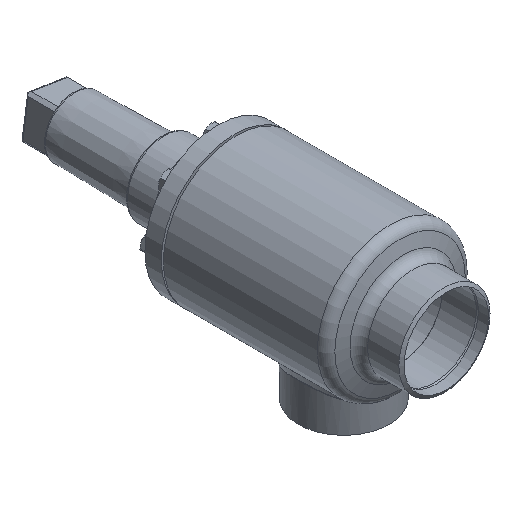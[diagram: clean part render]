
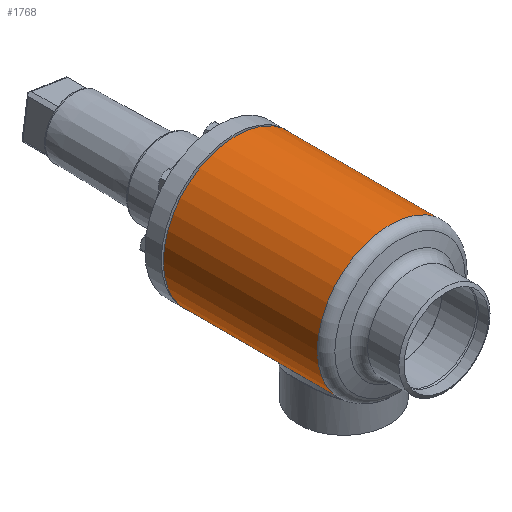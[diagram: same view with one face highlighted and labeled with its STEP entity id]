
A CAD part, isometric view. The second image highlights one B-rep face of the part: STEP entity #1768.
In plain terms, the highlighted cylindrical face has radius 71 mm (diameter 142 mm), a full revolution.
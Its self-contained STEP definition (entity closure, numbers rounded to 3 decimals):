
#294=FACE_BOUND('',#607,.T.);
#295=FACE_BOUND('',#608,.T.);
#403=CYLINDRICAL_SURFACE('',#1917,71.);
#464=FACE_OUTER_BOUND('',#606,.T.);
#606=EDGE_LOOP('',(#1380));
#607=EDGE_LOOP('',(#1381,#1382));
#608=EDGE_LOOP('',(#1383));
#843=CIRCLE('',#1913,71.);
#846=CIRCLE('',#1918,71.);
#969=B_SPLINE_CURVE_WITH_KNOTS('',3,(#3391,#3392,#3393,#3394,#3395,#3396,
#3397,#3398,#3399,#3400,#3401,#3402,#3403,#3404,#3405,#3406,#3407,#3408,
#3409,#3410,#3411,#3412,#3413,#3414,#3415,#3416,#3417,#3418,#3419,#3420,
#3421,#3422,#3423,#3424),.UNSPECIFIED.,.F.,.F.,(4,2,2,2,2,2,2,2,2,2,2,2,
2,2,2,2,4),(6.48,7.288,8.095,8.903,
9.711,10.523,11.335,12.148,12.96,
13.772,14.585,15.397,16.21,17.017,
17.825,18.632,19.44),.UNSPECIFIED.);
#970=B_SPLINE_CURVE_WITH_KNOTS('',3,(#3425,#3426,#3427,#3428,#3429,#3430,
#3431,#3432,#3433,#3434,#3435,#3436,#3437,#3438,#3439,#3440,#3441,#3442,
#3443,#3444,#3445,#3446,#3447,#3448,#3449,#3450,#3451,#3452,#3453,#3454,
#3455,#3456,#3457,#3458,#3459),.UNSPECIFIED.,.F.,.F.,(4,2,2,2,2,2,2,2,3,
2,2,2,2,2,2,2,4),(19.44,20.248,21.055,21.863,
22.671,23.483,24.295,25.108,25.92,
26.732,27.545,28.357,29.17,29.977,
30.785,31.592,32.4),.UNSPECIFIED.);
#995=VERTEX_POINT('',#3389);
#996=VERTEX_POINT('',#3390);
#998=VERTEX_POINT('',#3465);
#1001=VERTEX_POINT('',#3473);
#1162=EDGE_CURVE('',#995,#996,#969,.T.);
#1163=EDGE_CURVE('',#996,#995,#970,.T.);
#1166=EDGE_CURVE('',#998,#998,#843,.T.);
#1169=EDGE_CURVE('',#1001,#1001,#846,.T.);
#1380=ORIENTED_EDGE('',*,*,#1169,.T.);
#1381=ORIENTED_EDGE('',*,*,#1162,.T.);
#1382=ORIENTED_EDGE('',*,*,#1163,.T.);
#1383=ORIENTED_EDGE('',*,*,#1166,.F.);
#1768=ADVANCED_FACE('',(#464,#294,#295),#403,.T.);
#1913=AXIS2_PLACEMENT_3D('',#3466,#2208,#2209);
#1917=AXIS2_PLACEMENT_3D('',#3472,#2216,#2217);
#1918=AXIS2_PLACEMENT_3D('',#3474,#2218,#2219);
#2208=DIRECTION('center_axis',(0.,0.,-1.));
#2209=DIRECTION('ref_axis',(1.,0.,0.));
#2216=DIRECTION('center_axis',(0.,0.,-1.));
#2217=DIRECTION('ref_axis',(-1.,0.,0.));
#2218=DIRECTION('center_axis',(0.,0.,-1.));
#2219=DIRECTION('ref_axis',(-1.,0.,0.));
#3389=CARTESIAN_POINT('',(71.,0.,58.25));
#3390=CARTESIAN_POINT('',(71.,0.,141.75));
#3391=CARTESIAN_POINT('Ctrl Pts',(71.,0.,58.25));
#3392=CARTESIAN_POINT('Ctrl Pts',(71.,-2.692,58.25));
#3393=CARTESIAN_POINT('Ctrl Pts',(70.843,-5.455,58.515));
#3394=CARTESIAN_POINT('Ctrl Pts',(70.21,-10.91,59.605));
#3395=CARTESIAN_POINT('Ctrl Pts',(69.735,-13.603,60.43));
#3396=CARTESIAN_POINT('Ctrl Pts',(68.536,-18.729,62.583));
#3397=CARTESIAN_POINT('Ctrl Pts',(67.812,-21.169,63.913));
#3398=CARTESIAN_POINT('Ctrl Pts',(66.244,-25.66,66.955));
#3399=CARTESIAN_POINT('Ctrl Pts',(65.4,-27.71,68.667));
#3400=CARTESIAN_POINT('Ctrl Pts',(63.738,-31.344,72.3));
#3401=CARTESIAN_POINT('Ctrl Pts',(62.859,-33.058,74.357));
#3402=CARTESIAN_POINT('Ctrl Pts',(61.165,-36.096,78.845));
#3403=CARTESIAN_POINT('Ctrl Pts',(60.352,-37.42,81.278));
#3404=CARTESIAN_POINT('Ctrl Pts',(58.967,-39.566,86.389));
#3405=CARTESIAN_POINT('Ctrl Pts',(58.396,-40.39,89.073));
#3406=CARTESIAN_POINT('Ctrl Pts',(57.625,-41.483,94.524));
#3407=CARTESIAN_POINT('Ctrl Pts',(57.428,-41.75,97.292));
#3408=CARTESIAN_POINT('Ctrl Pts',(57.428,-41.75,102.708));
#3409=CARTESIAN_POINT('Ctrl Pts',(57.625,-41.483,105.476));
#3410=CARTESIAN_POINT('Ctrl Pts',(58.396,-40.39,110.927));
#3411=CARTESIAN_POINT('Ctrl Pts',(58.967,-39.566,113.611));
#3412=CARTESIAN_POINT('Ctrl Pts',(60.352,-37.42,118.722));
#3413=CARTESIAN_POINT('Ctrl Pts',(61.165,-36.096,121.155));
#3414=CARTESIAN_POINT('Ctrl Pts',(62.859,-33.058,125.643));
#3415=CARTESIAN_POINT('Ctrl Pts',(63.738,-31.344,127.7));
#3416=CARTESIAN_POINT('Ctrl Pts',(65.4,-27.71,131.333));
#3417=CARTESIAN_POINT('Ctrl Pts',(66.244,-25.66,133.045));
#3418=CARTESIAN_POINT('Ctrl Pts',(67.812,-21.169,136.087));
#3419=CARTESIAN_POINT('Ctrl Pts',(68.536,-18.729,137.417));
#3420=CARTESIAN_POINT('Ctrl Pts',(69.735,-13.603,139.57));
#3421=CARTESIAN_POINT('Ctrl Pts',(70.21,-10.91,140.395));
#3422=CARTESIAN_POINT('Ctrl Pts',(70.843,-5.455,141.485));
#3423=CARTESIAN_POINT('Ctrl Pts',(71.,-2.692,141.75));
#3424=CARTESIAN_POINT('Ctrl Pts',(71.,0.,141.75));
#3425=CARTESIAN_POINT('Ctrl Pts',(71.,0.,141.75));
#3426=CARTESIAN_POINT('Ctrl Pts',(71.,2.692,141.75));
#3427=CARTESIAN_POINT('Ctrl Pts',(70.843,5.455,141.485));
#3428=CARTESIAN_POINT('Ctrl Pts',(70.21,10.91,140.395));
#3429=CARTESIAN_POINT('Ctrl Pts',(69.735,13.603,139.57));
#3430=CARTESIAN_POINT('Ctrl Pts',(68.536,18.729,137.417));
#3431=CARTESIAN_POINT('Ctrl Pts',(67.812,21.169,136.087));
#3432=CARTESIAN_POINT('Ctrl Pts',(66.244,25.66,133.045));
#3433=CARTESIAN_POINT('Ctrl Pts',(65.4,27.71,131.333));
#3434=CARTESIAN_POINT('Ctrl Pts',(63.738,31.344,127.7));
#3435=CARTESIAN_POINT('Ctrl Pts',(62.859,33.058,125.643));
#3436=CARTESIAN_POINT('Ctrl Pts',(61.165,36.096,121.155));
#3437=CARTESIAN_POINT('Ctrl Pts',(60.352,37.42,118.722));
#3438=CARTESIAN_POINT('Ctrl Pts',(58.967,39.566,113.611));
#3439=CARTESIAN_POINT('Ctrl Pts',(58.396,40.39,110.927));
#3440=CARTESIAN_POINT('Ctrl Pts',(57.625,41.483,105.476));
#3441=CARTESIAN_POINT('Ctrl Pts',(57.428,41.75,102.708));
#3442=CARTESIAN_POINT('Ctrl Pts',(57.428,41.75,100.));
#3443=CARTESIAN_POINT('Ctrl Pts',(57.428,41.75,97.292));
#3444=CARTESIAN_POINT('Ctrl Pts',(57.625,41.483,94.524));
#3445=CARTESIAN_POINT('Ctrl Pts',(58.396,40.39,89.073));
#3446=CARTESIAN_POINT('Ctrl Pts',(58.967,39.566,86.389));
#3447=CARTESIAN_POINT('Ctrl Pts',(60.352,37.42,81.278));
#3448=CARTESIAN_POINT('Ctrl Pts',(61.165,36.096,78.845));
#3449=CARTESIAN_POINT('Ctrl Pts',(62.859,33.058,74.357));
#3450=CARTESIAN_POINT('Ctrl Pts',(63.738,31.344,72.3));
#3451=CARTESIAN_POINT('Ctrl Pts',(65.4,27.71,68.667));
#3452=CARTESIAN_POINT('Ctrl Pts',(66.244,25.66,66.955));
#3453=CARTESIAN_POINT('Ctrl Pts',(67.812,21.169,63.913));
#3454=CARTESIAN_POINT('Ctrl Pts',(68.536,18.729,62.583));
#3455=CARTESIAN_POINT('Ctrl Pts',(69.735,13.603,60.43));
#3456=CARTESIAN_POINT('Ctrl Pts',(70.21,10.91,59.605));
#3457=CARTESIAN_POINT('Ctrl Pts',(70.843,5.455,58.515));
#3458=CARTESIAN_POINT('Ctrl Pts',(71.,2.692,58.25));
#3459=CARTESIAN_POINT('Ctrl Pts',(71.,0.,58.25));
#3465=CARTESIAN_POINT('',(-71.,0.,54.787));
#3466=CARTESIAN_POINT('Origin',(0.,0.,54.787));
#3472=CARTESIAN_POINT('Origin',(0.,0.,126.057));
#3473=CARTESIAN_POINT('',(-71.,0.,205.));
#3474=CARTESIAN_POINT('Origin',(0.,0.,205.));
